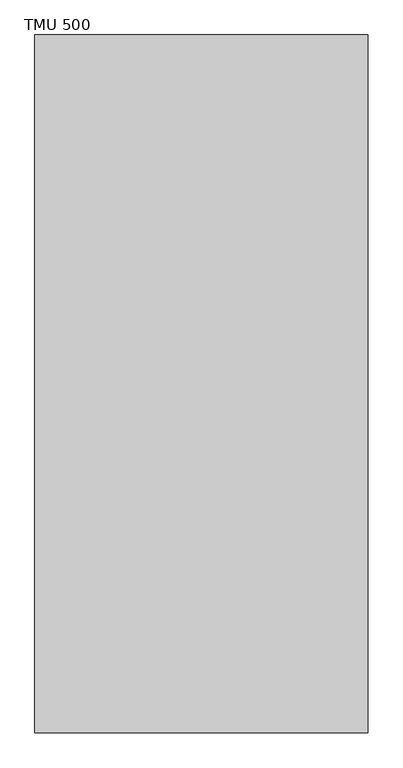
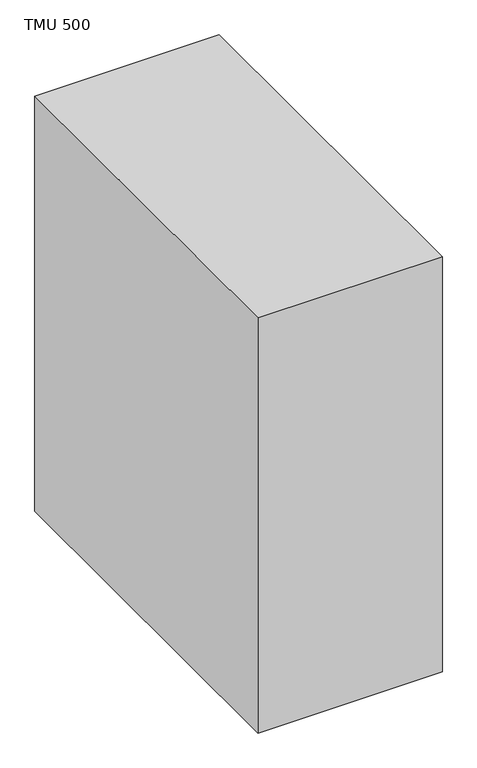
"""IFC4 building model written with IfcOpenShell, lengths in millimetres: unitary equipment geometry, AIC_StratifiedBufferTank_TMU_500-800_r00 : TMU 500."""

import ifcopenshell
import ifcopenshell.guid

model = None  # the IFC model being written
_history = None  # IfcOwnerHistory: only IFC2X3 demands one
_inside = {}  # id of a spatial element -> (the spatial element, [elements in it])
_under = {}  # id of a project, library or spatial element -> (it, [spatial elements below it])
_declared = {}  # id of a project -> (the project, [libraries it declares])
_typed = {}  # id of a type object -> (the type object, [elements of that type])
_made_of = {}  # id of a material, layer set ... -> (it, [elements and type objects made of it])


def new_model(schema):
    """Start an empty IFC model of exactly this schema.

    Asked for "IFC4X3", IfcOpenShell would pick the latest addendum, in which some entities
    have other attributes; the version numbers below select the first issue.
    IFC2X3 requires an IfcOwnerHistory on every rooted entity: one is made here for all.
    """
    global model, _history
    if schema == "IFC4X3":
        model = ifcopenshell.file(schema_version=(4, 3, 0, 0))
    else:
        model = ifcopenshell.file(schema=schema)
    _inside.clear()
    _under.clear()
    _declared.clear()
    _typed.clear()
    _made_of.clear()
    _history = None
    if model.schema == "IFC2X3":
        org = make("IfcOrganization", Name="unknown")
        user = make(
            "IfcPersonAndOrganization",
            ThePerson=make("IfcPerson", FamilyName="unknown"),
            TheOrganization=org,
        )
        app = make(
            "IfcApplication",
            ApplicationDeveloper=org,
            Version="unknown",
            ApplicationFullName="unknown",
            ApplicationIdentifier="unknown",
        )
        _history = make(
            "IfcOwnerHistory",
            OwningUser=user,
            OwningApplication=app,
            ChangeAction="ADDED",
            CreationDate=0,
        )
    return model


def make(cls, **values):
    """One entity of the class cls with the attributes given. An attribute that is None is left unset."""
    return model.create_entity(
        cls, **{name: value for name, value in values.items() if value is not None}
    )


def rooted(cls, **values):
    """An entity with a GlobalId (a new one), such as an element, a storey or a relation."""
    return make(cls, GlobalId=ifcopenshell.guid.new(), OwnerHistory=_history, **values)


def si_unit(unit_type, name, prefix=None):
    """IfcSIUnit, for example si_unit("LENGTHUNIT", "METRE", prefix="MILLI")."""
    return make("IfcSIUnit", UnitType=unit_type, Prefix=prefix, Name=name)


def assignment(units):
    """IfcUnitAssignment: the units of a project."""
    return None if units is None else make("IfcUnitAssignment", Units=units)


def point(xyz):
    """IfcCartesianPoint."""
    return None if xyz is None else make("IfcCartesianPoint", Coordinates=xyz)


def direction(xyz):
    """IfcDirection."""
    return None if xyz is None else make("IfcDirection", DirectionRatios=xyz)


def frame(location, z_axis=None, x_axis=None):
    """IfcAxis2Placement3D, a coordinate frame: its origin and axes. An axis left out is left unset."""
    return make(
        "IfcAxis2Placement3D",
        Location=point(location),
        Axis=direction(z_axis),
        RefDirection=direction(x_axis),
    )


def frame_2d(location, x_axis=None):
    """IfcAxis2Placement2D, a coordinate frame in the plane: its origin and x axis."""
    return make(
        "IfcAxis2Placement2D", Location=point(location), RefDirection=direction(x_axis)
    )


def origin():
    """The frame at (0, 0, 0) with its axes left unset."""
    return frame((0.0, 0.0, 0.0))


def origin_with_axes():
    """The frame at (0, 0, 0) with the z axis (0, 0, 1) and the x axis (1, 0, 0) written out."""
    return frame((0.0, 0.0, 0.0), z_axis=(0.0, 0.0, 1.0), x_axis=(1.0, 0.0, 0.0))


def place(relative_to, where):
    """IfcLocalPlacement: puts the frame where relative to a parent placement (None: the world)."""
    return make(
        "IfcLocalPlacement", PlacementRelTo=relative_to, RelativePlacement=where
    )


def context(
    kind, dimensions, precision=None, world=None, true_north=None, identifier=None
):
    """IfcGeometricRepresentationContext, for example the 3D "Model" context."""
    return make(
        "IfcGeometricRepresentationContext",
        ContextIdentifier=identifier,
        ContextType=kind,
        CoordinateSpaceDimension=dimensions,
        Precision=precision,
        WorldCoordinateSystem=world,
        TrueNorth=true_north,
    )


def project(units=None, contexts=None):
    """IfcProject with its units and contexts."""
    return rooted(
        "IfcProject",
        Name="project",
        RepresentationContexts=contexts,
        UnitsInContext=assignment(units),
    )


def spatial(cls, under=None, at=None, **own):
    """A site, building, storey or space (cls), placed at a placement, below another one or the project."""
    s = rooted(cls, ObjectPlacement=at, **own)
    if under is not None:
        _under.setdefault(under.id(), (under, []))[1].append(s)
    return s


def polyline(points):
    """IfcPolyline through the points."""
    return make("IfcPolyline", Points=[point(p) for p in points])


def circle_curve(where, radius):
    """IfcCircle in the frame where."""
    return make("IfcCircle", Position=where, Radius=radius)


def trimmed(basis, trim1, trim2, sense, master):
    """IfcTrimmedCurve: the piece of a basis curve between two trims."""
    return make(
        "IfcTrimmedCurve",
        BasisCurve=basis,
        Trim1=trim1,
        Trim2=trim2,
        SenseAgreement=sense,
        MasterRepresentation=master,
    )


def segment(curve, same_sense, transition):
    """IfcCompositeCurveSegment."""
    return make(
        "IfcCompositeCurveSegment",
        Transition=transition,
        SameSense=same_sense,
        ParentCurve=curve,
    )


def composite_curve(segments, self_intersect=None):
    """IfcCompositeCurve: segments joined end to end."""
    return make("IfcCompositeCurve", Segments=segments, SelfIntersect=self_intersect)


def outline(outer, holes=None, kind="AREA"):
    """IfcArbitraryClosedProfileDef: a profile drawn as a closed curve; with holes, ...WithVoids."""
    if holes is None:
        return make("IfcArbitraryClosedProfileDef", ProfileType=kind, OuterCurve=outer)
    return make(
        "IfcArbitraryProfileDefWithVoids",
        ProfileType=kind,
        OuterCurve=outer,
        InnerCurves=holes,
    )


def extrude(swept, where, along, depth):
    """IfcExtrudedAreaSolid: the profile swept, set in the frame where, extruded along a direction by depth."""
    return make(
        "IfcExtrudedAreaSolid",
        SweptArea=swept,
        Position=where,
        ExtrudedDirection=direction(along),
        Depth=depth,
    )


def shape(context_of_items, identifier, shape_type, items):
    """IfcShapeRepresentation: the items that make up one representation, for example the "Body"."""
    return make(
        "IfcShapeRepresentation",
        ContextOfItems=context_of_items,
        RepresentationIdentifier=identifier,
        RepresentationType=shape_type,
        Items=items,
    )


def source(mapping_origin, context_of_items, identifier, shape_type, items):
    """IfcRepresentationMap: a shape defined once, which mapped items show again and again."""
    return make(
        "IfcRepresentationMap",
        MappingOrigin=mapping_origin,
        MappedRepresentation=shape(context_of_items, identifier, shape_type, items),
    )


def transform(
    local_origin,
    x_axis=None,
    y_axis=None,
    z_axis=None,
    scale=None,
    scale2=None,
    scale3=None,
    uniform=True,
):
    """IfcCartesianTransformationOperator3D, or its non-uniform kind. x_axis, y_axis, z_axis: its Axis1, 2, 3."""
    if uniform:
        return make(
            "IfcCartesianTransformationOperator3D",
            Axis1=direction(x_axis),
            Axis2=direction(y_axis),
            LocalOrigin=point(local_origin),
            Scale=scale,
            Axis3=direction(z_axis),
        )
    return make(
        "IfcCartesianTransformationOperator3DnonUniform",
        Axis1=direction(x_axis),
        Axis2=direction(y_axis),
        LocalOrigin=point(local_origin),
        Scale=scale,
        Axis3=direction(z_axis),
        Scale2=scale2,
        Scale3=scale3,
    )


def mapped(mapping_source, mapping_target):
    """IfcMappedItem: shows the shape of a source again, moved by a transform."""
    return make(
        "IfcMappedItem", MappingSource=mapping_source, MappingTarget=mapping_target
    )


def made_of(thing, what):
    """Note that an element or type object is made of a material, layer set ...; save() writes the relation."""
    if what is not None:
        _made_of.setdefault(what.id(), (what, []))[1].append(thing)
    return thing


def element(
    cls,
    number,
    at=None,
    inside=None,
    cuts=None,
    type_object=None,
    material=None,
    context=None,
    identifier="Body",
    shape_type=None,
    held_by="IfcProductDefinitionShape",
    body=None,
    shapes=None,
    **own,
):
    """One element of the class cls, such as IfcWall. Its Tag is "e" and its number.

    at: its placement. inside: the storey or other place that contains it. cuts: it is an
    opening in that element (IfcRelVoidsElement). A single representation is given by context,
    identifier, shape_type and body (its items); several are given by shapes. held_by: the class
    of the entity that holds the representations. save() writes the other relations.
    """
    e = rooted(cls, Tag="e%d" % number, ObjectPlacement=at, **own)
    if body is not None:
        shapes = [shape(context, identifier, shape_type, body)]
    if shapes is not None:
        e.Representation = make(held_by, Representations=shapes)
    if inside is not None:
        _inside.setdefault(inside.id(), (inside, []))[1].append(e)
    if cuts is not None:
        rooted(
            "IfcRelVoidsElement", RelatingBuildingElement=cuts, RelatedOpeningElement=e
        )
    if type_object is not None:
        _typed.setdefault(type_object.id(), (type_object, []))[1].append(e)
    return made_of(e, material)


def aggregate(whole, parts):
    """IfcRelAggregates: a whole, such as a stair, and the parts it consists of."""
    return rooted("IfcRelAggregates", RelatingObject=whole, RelatedObjects=parts)


def save(model, path):
    """Write the relations noted so far, then the file.

    IfcRelAggregates (storeys below a building ...), IfcRelContainedInSpatialStructure (elements
    in a storey), IfcRelDefinesByType, IfcRelAssociatesMaterial and IfcRelDeclares: one each for
    every whole, place, type object, material and project.
    """
    for whole, parts in _under.values():
        aggregate(whole, parts)
    for where, things in _inside.values():
        rooted(
            "IfcRelContainedInSpatialStructure",
            RelatedElements=things,
            RelatingStructure=where,
        )
    for kind, things in _typed.values():
        rooted("IfcRelDefinesByType", RelatedObjects=things, RelatingType=kind)
    for what, things in _made_of.values():
        rooted("IfcRelAssociatesMaterial", RelatedObjects=things, RelatingMaterial=what)
    for by, libraries in _declared.values():
        rooted("IfcRelDeclares", RelatingContext=by, RelatedDefinitions=libraries)
    model.write(path)


def plane_surface(at):
    """IfcPlane: the flat surface through the origin of the frame at, square to its z axis."""
    return make("IfcPlane", Position=at)


def cylinder_surface(at, radius):
    """IfcCylindricalSurface: all points at the distance radius from the z axis of the frame at."""
    return make("IfcCylindricalSurface", Position=at, Radius=radius)


def advanced_brep(points, edges, surfaces, faces):
    """IfcAdvancedBrep: a solid bounded by faces that lie on surfaces and meet in shared edges.

    An edge is (start, end): straight between two places in points (the first is 0);
    or (start, end, curve); or (start, end, curve, False) where it runs against its curve.
    A face is (place in surfaces, loops), or (place, loops, False) where it looks against
    its surface's normal. A loop lists edges by number (the first is 1), with a minus sign
    where the edge is run from its end to its start. The first loop is the outer one.
    """
    corners = [point(p) for p in points]
    vertices = [make("IfcVertexPoint", VertexGeometry=c) for c in corners]
    made = []
    for start, end, *more in edges:
        made.append(
            make(
                "IfcEdgeCurve",
                EdgeStart=vertices[start],
                EdgeEnd=vertices[end],
                EdgeGeometry=more[0] if more else make("IfcPolyline", Points=[corners[start], corners[end]]),
                SameSense=more[1] if len(more) > 1 else True,
            )
        )
    hull = []
    for where, loops, *sense in faces:
        bounds = []
        for j, loop in enumerate(loops):
            ring = [make("IfcOrientedEdge", EdgeElement=made[abs(k) - 1], Orientation=k > 0) for k in loop]
            bounds.append(
                make(
                    "IfcFaceOuterBound" if j == 0 else "IfcFaceBound",
                    Bound=make("IfcEdgeLoop", EdgeList=ring),
                    Orientation=True,
                )
            )
        hull.append(make("IfcAdvancedFace", Bounds=bounds, FaceSurface=surfaces[where], SameSense=sense[0] if sense else True))
    return make("IfcAdvancedBrep", Outer=make("IfcClosedShell", CfsFaces=hull))


def tmu_500_29b279d2(model_context):
    return source(origin(), model_context, "Body", "SolidModel", [
        extrude(outline(polyline([(540.0, -1251.0), (-540.0, -1251.0), (-540.0, 1011.0), (540.0, 1011.0), (540.0, -1251.0)])), origin_with_axes(), (0.0, 0.0, 1.0), 2571.0),
        advanced_brep(
        [(-390.0, 511.0, 2171.0), (-440.0, 461.0, 2171.0), (-440.0, 451.0, 2171.0), (-420.0, 451.0, 2171.0), (-420.0, 446.5, 2171.0), (-440.0, 446.5, 2171.0), (-440.0, -446.5, 2171.0), (-420.0, -446.5, 2171.0), (-420.0, -451.0, 2171.0), (-440.0, -451.0, 2171.0), (-440.0, -461.0, 2171.0), (-390.0, -511.0, 2171.0), (-380.0, -511.0, 2171.0), (-380.0, -491.0, 2171.0), (-375.5, -491.0, 2171.0), (-375.5, -511.0, 2171.0), (375.5, -511.0, 2171.0), (375.5, -491.0, 2171.0), (380.0, -491.0, 2171.0), (380.0, -511.0, 2171.0), (390.0, -511.0, 2171.0), (440.0, -461.0, 2171.0), (440.0, -451.0, 2171.0), (420.0, -451.0, 2171.0), (420.0, -446.5, 2171.0), (440.0, -446.5, 2171.0), (440.0, 446.5, 2171.0), (420.0, 446.5, 2171.0), (420.0, 451.0, 2171.0), (440.0, 451.0, 2171.0), (440.0, 461.0, 2171.0), (390.0, 511.0, 2171.0), (380.0, 511.0, 2171.0), (380.0, 491.0, 2171.0), (375.5, 491.0, 2171.0), (375.5, 511.0, 2171.0), (-375.5, 511.0, 2171.0), (-375.5, 491.0, 2171.0), (-380.0, 491.0, 2171.0), (-380.0, 511.0, 2171.0), (-432.5, 463.5, 3.0), (-392.5, 503.5, 3.0), (-387.0, 503.5, 3.0), (-387.0, 479.0, 3.0), (-352.2040816, 479.0, 3.0), (-352.2040816, -480.0, 3.0), (-28.494898, -480.0, 3.0), (-28.494898, 479.0, 3.0), (28.494898, 479.0, 3.0), (28.494898, -480.0, 3.0), (352.2040816, -480.0, 3.0), (352.2040816, 479.0, 3.0), (387.0, 479.0, 3.0), (387.0, 503.5, 3.0), (392.5, 503.5, 3.0), (432.5, 463.5, 3.0), (432.5, -463.5, 3.0), (392.5, -503.5, 3.0), (-392.5, -503.5, 3.0), (-432.5, -463.5, 3.0), (387.0, 511.0, 133.0), (387.0, 511.0, 98.0), (-387.0, 511.0, 98.0), (-387.0, 511.0, 133.0), (-390.0, 511.0, 133.0), (-380.0, 511.0, 133.0), (-375.5, 511.0, 133.0), (375.5, 511.0, 133.0), (380.0, 511.0, 133.0), (390.0, 511.0, 133.0), (-440.0, 446.5, 1639.0), (-440.0, -446.5, 1639.0), (-440.0, 461.0, 133.0), (-440.0, 451.0, 133.0), (-440.0, -461.0, 133.0), (-440.0, -451.0, 133.0), (-440.0, 446.5, 133.0), (-440.0, -446.5, 133.0), (-440.0, -446.5, 1634.0), (-440.0, 446.5, 1634.0), (-375.5, -511.0, 1817.0), (375.5, -511.0, 1817.0), (-390.0, -511.0, 133.0), (-380.0, -511.0, 133.0), (390.0, -511.0, 133.0), (380.0, -511.0, 133.0), (-375.5, -511.0, 133.0), (375.5, -511.0, 133.0), (375.5, -511.0, 1359.0), (-375.5, -511.0, 1359.0), (-375.5, -511.0, 1812.0), (-375.5, -511.0, 1389.0), (375.5, -511.0, 1389.0), (375.5, -511.0, 1812.0), (440.0, -446.5, 1639.0), (440.0, 446.5, 1639.0), (440.0, 461.0, 133.0), (440.0, 451.0, 133.0), (440.0, -461.0, 133.0), (440.0, -451.0, 133.0), (440.0, -446.5, 133.0), (440.0, 446.5, 133.0), (440.0, 446.5, 1634.0), (440.0, -446.5, 1634.0), (-432.5, 446.5, 133.0), (-432.5, -446.5, 133.0), (-375.5, -503.5, 133.0), (375.5, -503.5, 133.0), (432.5, -446.5, 133.0), (432.5, 446.5, 133.0), (-432.5, -463.5, 133.0), (-392.5, -503.5, 133.0), (-380.0, -503.5, 133.0), (-432.5, -451.0, 133.0), (392.5, -503.5, 133.0), (432.5, -463.5, 133.0), (432.5, -451.0, 133.0), (380.0, -503.5, 133.0), (432.5, 463.5, 133.0), (392.5, 503.5, 133.0), (387.0, 503.5, 133.0), (432.5, 451.0, 133.0), (-387.0, 503.5, 133.0), (-392.5, 503.5, 133.0), (-432.5, 463.5, 133.0), (-432.5, 451.0, 133.0), (-387.0, 503.5, 98.0), (387.0, 503.5, 98.0), (-387.0, 479.0, 98.0), (387.0, 479.0, 98.0), (327.0, 479.0, 98.0), (327.0, -480.0, 98.0), (60.0, -480.0, 98.0), (60.0, 479.0, 98.0), (-60.0, 479.0, 98.0), (-60.0, -480.0, 98.0), (-327.0, -480.0, 98.0), (-327.0, 479.0, 98.0), (-380.0, 491.0, 133.0), (-375.5, 491.0, 133.0), (-420.0, 446.5, 133.0), (-420.0, 451.0, 133.0), (375.5, 491.0, 133.0), (380.0, 491.0, 133.0), (420.0, 451.0, 133.0), (420.0, 446.5, 133.0), (-420.0, -451.0, 133.0), (-420.0, -446.5, 133.0), (-375.5, -491.0, 133.0), (-380.0, -491.0, 133.0), (420.0, -446.5, 133.0), (420.0, -451.0, 133.0), (380.0, -491.0, 133.0), (375.5, -491.0, 133.0), (-420.0, 446.5, 1634.0), (-420.0, -446.5, 1634.0), (-420.0, -446.5, 1639.0), (-420.0, 446.5, 1639.0), (420.0, 446.5, 1639.0), (420.0, -446.5, 1639.0), (420.0, -446.5, 1634.0), (420.0, 446.5, 1634.0), (-375.5, -508.0, 1359.0), (-375.5, -508.0, 1389.0), (-375.5, -508.0, 1812.0), (-375.5, -508.0, 1817.0), (375.5, -508.0, 1817.0), (375.5, -508.0, 1812.0), (375.5, -508.0, 1389.0), (375.5, -508.0, 1359.0)],
        [
            (0, 1, circle_curve(frame((-390.0, 461.0, 2171.0), z_axis=(0.0, 0.0, 1.0), x_axis=(-1.0, 0.0, 0.0)), 50.0)),
            (1, 2),
            (2, 3),
            (3, 4),
            (4, 5),
            (5, 6),
            (6, 7),
            (7, 8),
            (8, 9),
            (9, 10),
            (10, 11, circle_curve(frame((-390.0, -461.0, 2171.0), z_axis=(0.0, 0.0, 1.0), x_axis=(-1.0, 0.0, 0.0)), 50.0)),
            (11, 12),
            (12, 13),
            (13, 14),
            (14, 15),
            (15, 16),
            (16, 17),
            (17, 18),
            (18, 19),
            (19, 20),
            (20, 21, circle_curve(frame((390.0, -461.0, 2171.0), z_axis=(0.0, 0.0, 1.0), x_axis=(-1.0, 0.0, 0.0)), 50.0)),
            (21, 22),
            (22, 23),
            (23, 24),
            (24, 25),
            (25, 26),
            (26, 27),
            (27, 28),
            (28, 29),
            (29, 30),
            (30, 31, circle_curve(frame((390.0, 461.0, 2171.0), z_axis=(0.0, 0.0, 1.0), x_axis=(-1.0, 0.0, 0.0)), 50.0)),
            (31, 32),
            (32, 33),
            (33, 34),
            (34, 35),
            (35, 36),
            (36, 37),
            (37, 38),
            (38, 39),
            (39, 0),
            (40, 41, circle_curve(frame((-392.5, 463.5, 3.0), z_axis=(0.0, 0.0, -1.0), x_axis=(1.0, 0.0, 0.0)), 40.0)),
            (41, 42),
            (42, 43),
            (43, 44),
            (44, 45),
            (45, 46),
            (46, 47),
            (47, 48),
            (48, 49),
            (49, 50),
            (50, 51),
            (51, 52),
            (52, 53),
            (53, 54),
            (54, 55, circle_curve(frame((392.5, 463.5, 3.0), z_axis=(0.0, 0.0, -1.0), x_axis=(1.0, 0.0, 0.0)), 40.0)),
            (55, 56),
            (56, 57, circle_curve(frame((392.5, -463.5, 3.0), z_axis=(0.0, 0.0, -1.0), x_axis=(1.0, 0.0, 0.0)), 40.0)),
            (57, 58),
            (58, 59, circle_curve(frame((-392.5, -463.5, 3.0), z_axis=(0.0, 0.0, -1.0), x_axis=(1.0, 0.0, 0.0)), 40.0)),
            (59, 40),
            (60, 61),
            (61, 62),
            (62, 63),
            (63, 64),
            (64, 0),
            (39, 65),
            (65, 66),
            (66, 36),
            (35, 67),
            (67, 68),
            (68, 32),
            (31, 69),
            (69, 60),
            (5, 70),
            (70, 71),
            (71, 6),
            (1, 72),
            (72, 73),
            (73, 2),
            (74, 10),
            (9, 75),
            (75, 74),
            (76, 77),
            (77, 78),
            (78, 79),
            (79, 76),
            (15, 80),
            (80, 81),
            (81, 16),
            (11, 82),
            (82, 83),
            (83, 12),
            (84, 20),
            (19, 85),
            (85, 84),
            (86, 87),
            (87, 88),
            (88, 89),
            (89, 86),
            (90, 91),
            (91, 92),
            (92, 93),
            (93, 90),
            (25, 94),
            (94, 95),
            (95, 26),
            (96, 30),
            (29, 97),
            (97, 96),
            (21, 98),
            (98, 99),
            (99, 22),
            (100, 101),
            (101, 102),
            (102, 103),
            (103, 100),
            (76, 104),
            (104, 105),
            (105, 77),
            (86, 106),
            (106, 107),
            (107, 87),
            (100, 108),
            (108, 109),
            (109, 101),
            (110, 111, circle_curve(frame((-392.5, -463.5, 133.0), z_axis=(0.0, 0.0, 1.0), x_axis=(1.0, 0.0, 0.0)), 40.0)),
            (111, 112),
            (112, 83),
            (82, 74, circle_curve(frame((-390.0, -461.0, 133.0), z_axis=(0.0, 0.0, -1.0), x_axis=(-1.0, 0.0, 0.0)), 50.0)),
            (75, 113),
            (113, 110),
            (114, 115, circle_curve(frame((392.5, -463.5, 133.0), z_axis=(0.0, 0.0, 1.0), x_axis=(1.0, 0.0, 0.0)), 40.0)),
            (115, 116),
            (116, 99),
            (98, 84, circle_curve(frame((390.0, -461.0, 133.0), z_axis=(0.0, 0.0, -1.0), x_axis=(-1.0, 0.0, 0.0)), 50.0)),
            (85, 117),
            (117, 114),
            (118, 119, circle_curve(frame((392.5, 463.5, 133.0), z_axis=(0.0, 0.0, 1.0), x_axis=(1.0, 0.0, 0.0)), 40.0)),
            (119, 120),
            (120, 60),
            (69, 96, circle_curve(frame((390.0, 461.0, 133.0), z_axis=(0.0, 0.0, -1.0), x_axis=(-1.0, 0.0, 0.0)), 50.0)),
            (97, 121),
            (121, 118),
            (63, 122),
            (122, 123),
            (123, 124, circle_curve(frame((-392.5, 463.5, 133.0), z_axis=(0.0, 0.0, 1.0), x_axis=(1.0, 0.0, 0.0)), 40.0)),
            (124, 125),
            (125, 73),
            (72, 64, circle_curve(frame((-390.0, 461.0, 133.0), z_axis=(0.0, 0.0, -1.0), x_axis=(-1.0, 0.0, 0.0)), 50.0)),
            (123, 41),
            (40, 124),
            (59, 110),
            (113, 105),
            (104, 125),
            (58, 111),
            (57, 114),
            (117, 107),
            (106, 112),
            (56, 115),
            (55, 118),
            (121, 109),
            (108, 116),
            (54, 119),
            (122, 126),
            (126, 42),
            (62, 126),
            (120, 127),
            (127, 61),
            (53, 127),
            (128, 126),
            (127, 129),
            (129, 130),
            (130, 131),
            (131, 132),
            (132, 133),
            (133, 134),
            (134, 135),
            (135, 136),
            (136, 137),
            (137, 128),
            (128, 43),
            (47, 134),
            (133, 48),
            (137, 44),
            (129, 52),
            (51, 130),
            (131, 50),
            (49, 132),
            (135, 46),
            (45, 136),
            (65, 138),
            (138, 139),
            (139, 66),
            (140, 141),
            (141, 125),
            (104, 140),
            (67, 142),
            (142, 143),
            (143, 68),
            (144, 145),
            (145, 109),
            (121, 144),
            (146, 147),
            (147, 105),
            (113, 146),
            (148, 149),
            (149, 112),
            (106, 148),
            (150, 151),
            (151, 116),
            (108, 150),
            (152, 153),
            (153, 107),
            (117, 152),
            (38, 138),
            (37, 139),
            (140, 154),
            (154, 155),
            (155, 147),
            (146, 8),
            (7, 156),
            (156, 157),
            (157, 4),
            (3, 141),
            (157, 70),
            (79, 154),
            (34, 142),
            (33, 143),
            (144, 28),
            (27, 158),
            (158, 159),
            (159, 24),
            (23, 151),
            (150, 160),
            (160, 161),
            (161, 145),
            (95, 158),
            (161, 102),
            (71, 156),
            (155, 78),
            (14, 148),
            (89, 162),
            (162, 163),
            (163, 91),
            (90, 164),
            (164, 165),
            (165, 80),
            (13, 149),
            (159, 94),
            (103, 160),
            (18, 152),
            (17, 153),
            (81, 166),
            (166, 167),
            (167, 93),
            (92, 168),
            (168, 169),
            (169, 88),
            (168, 163),
            (162, 169),
            (166, 165),
            (164, 167),
        ],
        [
            plane_surface(frame((-440.0, 511.0, 2171.0), z_axis=(0.0, 0.0, 1.0), x_axis=(-1.0, 0.0, 0.0))),
            plane_surface(frame((-440.0, 511.0, 3.0), z_axis=(0.0, 0.0, -1.0), x_axis=(1.0, 0.0, 0.0))),
            plane_surface(frame((440.0, 511.0, 2171.0), z_axis=(0.0, 1.0, 0.0), x_axis=(0.0, 0.0, -1.0))),
            plane_surface(frame((-440.0, 511.0, 2171.0), z_axis=(-1.0, 0.0, 0.0), x_axis=(0.0, 0.0, -1.0))),
            plane_surface(frame((-440.0, -511.0, 2171.0), z_axis=(0.0, -1.0, 0.0), x_axis=(0.0, 0.0, -1.0))),
            plane_surface(frame((440.0, -511.0, 2171.0), z_axis=(1.0, 0.0, 0.0), x_axis=(0.0, 0.0, -1.0))),
            plane_surface(frame((-352.5, 463.5, 133.0), z_axis=(0.0, 0.0, -1.0), x_axis=(0.0, -1.0, 0.0))),
            cylinder_surface(frame((-392.5, 463.5, 0.0), z_axis=(0.0, 0.0, -1.0), x_axis=(1.0, 0.0, 0.0)), 40.0),
            plane_surface(frame((-432.5, -463.5, 133.0), z_axis=(-1.0, 0.0, 0.0), x_axis=(0.0, 0.0, -1.0))),
            cylinder_surface(frame((-392.5, -463.5, 0.0), z_axis=(0.0, 0.0, -1.0), x_axis=(1.0, 0.0, 0.0)), 40.0),
            plane_surface(frame((392.5, -503.5, 133.0), z_axis=(0.0, -1.0, 0.0), x_axis=(0.0, 0.0, -1.0))),
            cylinder_surface(frame((392.5, -463.5, 0.0), z_axis=(0.0, 0.0, -1.0), x_axis=(1.0, 0.0, 0.0)), 40.0),
            plane_surface(frame((432.5, 463.5, 133.0), z_axis=(1.0, 0.0, 0.0), x_axis=(0.0, 0.0, -1.0))),
            cylinder_surface(frame((392.5, 463.5, 0.0), z_axis=(0.0, 0.0, -1.0), x_axis=(1.0, 0.0, 0.0)), 40.0),
            plane_surface(frame((-392.5, 503.5, 133.0), z_axis=(0.0, 1.0, 0.0), x_axis=(0.0, 0.0, -1.0))),
            plane_surface(frame((-387.0, 503.5, 133.0), z_axis=(-1.0, 0.0, 0.0), x_axis=(0.0, 0.0, -1.0))),
            plane_surface(frame((387.0, 511.0, 133.0), z_axis=(1.0, 0.0, 0.0), x_axis=(0.0, 0.0, -1.0))),
            plane_surface(frame((387.0, 503.5, 133.0), z_axis=(0.0, 1.0, 0.0), x_axis=(0.0, 0.0, -1.0))),
            plane_surface(frame((-387.0, 511.0, 98.0), z_axis=(0.0, 0.0, -1.0), x_axis=(-1.0, 0.0, 0.0))),
            plane_surface(frame((-387.0, 511.0, 98.0), z_axis=(1.0, 0.0, 0.0), x_axis=(0.0, 0.0, -1.0))),
            plane_surface(frame((-387.0, 479.0, 98.0), z_axis=(0.0, 1.0, 0.0), x_axis=(0.0, 0.0, -1.0))),
            plane_surface(frame((387.0, 479.0, 98.0), z_axis=(-1.0, 0.0, 0.0), x_axis=(0.0, 0.0, -1.0))),
            plane_surface(frame((353.0, -480.0, 0.0), z_axis=(0.0, 1.0, 0.0), x_axis=(-0.2564346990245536, 0.0, 0.9665615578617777))),
            plane_surface(frame((327.0, 503.5, 98.0), z_axis=(-0.9665615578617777, 0.0, -0.2564346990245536), x_axis=(0.0, -1.0, 0.0))),
            plane_surface(frame((27.5, 503.5, 0.0), z_axis=(0.9491664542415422, 0.0, -0.3147745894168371), x_axis=(0.0, -1.0, 0.0))),
            plane_surface(frame((-60.0, 503.5, 98.0), z_axis=(-0.9491664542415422, 0.0, -0.3147745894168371), x_axis=(0.0, -1.0, 0.0))),
            plane_surface(frame((-353.0, 503.5, 0.0), z_axis=(0.9665615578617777, 0.0, -0.2564346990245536), x_axis=(0.0, -1.0, 0.0))),
            cylinder_surface(frame((-390.0, 461.0, 133.0), z_axis=(0.0, 0.0, -1.0), x_axis=(-1.0, 0.0, 0.0)), 50.0),
            cylinder_surface(frame((390.0, 461.0, 133.0), z_axis=(0.0, 0.0, -1.0), x_axis=(-1.0, 0.0, 0.0)), 50.0),
            cylinder_surface(frame((-390.0, -461.0, 133.0), z_axis=(0.0, 0.0, -1.0), x_axis=(-1.0, 0.0, 0.0)), 50.0),
            cylinder_surface(frame((390.0, -461.0, 133.0), z_axis=(0.0, 0.0, -1.0), x_axis=(-1.0, 0.0, 0.0)), 50.0),
            plane_surface(frame((-380.0, 511.0, 133.0), z_axis=(0.0, 0.0, 1.0), x_axis=(1.0, 0.0, 0.0))),
            plane_surface(frame((-380.0, 511.0, 2171.0), z_axis=(1.0, 0.0, 0.0), x_axis=(0.0, 0.0, -1.0))),
            plane_surface(frame((-380.0, 491.0, 2171.0), z_axis=(0.0, 1.0, 0.0), x_axis=(0.0, 0.0, -1.0))),
            plane_surface(frame((-375.5, 491.0, 2171.0), z_axis=(-1.0, 0.0, 0.0), x_axis=(0.0, 0.0, -1.0))),
            plane_surface(frame((-420.0, 446.5, 2171.0), z_axis=(-1.0, 0.0, 0.0), x_axis=(0.0, 0.0, -1.0))),
            plane_surface(frame((-420.0, 451.0, 2171.0), z_axis=(0.0, -1.0, 0.0), x_axis=(0.0, 0.0, -1.0))),
            plane_surface(frame((-440.0, 446.5, 2171.0), z_axis=(0.0, 1.0, 0.0), x_axis=(0.0, 0.0, -1.0))),
            plane_surface(frame((375.5, 511.0, 2171.0), z_axis=(1.0, 0.0, 0.0), x_axis=(0.0, 0.0, -1.0))),
            plane_surface(frame((375.5, 491.0, 2171.0), z_axis=(0.0, 1.0, 0.0), x_axis=(0.0, 0.0, -1.0))),
            plane_surface(frame((380.0, 491.0, 2171.0), z_axis=(-1.0, 0.0, 0.0), x_axis=(0.0, 0.0, -1.0))),
            plane_surface(frame((420.0, 451.0, 2171.0), z_axis=(1.0, 0.0, 0.0), x_axis=(0.0, 0.0, -1.0))),
            plane_surface(frame((420.0, 446.5, 2171.0), z_axis=(0.0, 1.0, 0.0), x_axis=(0.0, 0.0, -1.0))),
            plane_surface(frame((440.0, 451.0, 2171.0), z_axis=(0.0, -1.0, 0.0), x_axis=(0.0, 0.0, -1.0))),
            plane_surface(frame((-420.0, -446.5, 2171.0), z_axis=(0.0, -1.0, 0.0), x_axis=(0.0, 0.0, -1.0))),
            plane_surface(frame((-440.0, -451.0, 2171.0), z_axis=(0.0, 1.0, 0.0), x_axis=(0.0, 0.0, -1.0))),
            plane_surface(frame((-375.5, -511.0, 2171.0), z_axis=(-1.0, 0.0, 0.0), x_axis=(0.0, 0.0, -1.0))),
            plane_surface(frame((-375.5, -491.0, 2171.0), z_axis=(0.0, -1.0, 0.0), x_axis=(0.0, 0.0, -1.0))),
            plane_surface(frame((-380.0, -491.0, 2171.0), z_axis=(1.0, 0.0, 0.0), x_axis=(0.0, 0.0, -1.0))),
            plane_surface(frame((420.0, -451.0, 2171.0), z_axis=(0.0, 1.0, 0.0), x_axis=(0.0, 0.0, -1.0))),
            plane_surface(frame((440.0, -446.5, 2171.0), z_axis=(0.0, -1.0, 0.0), x_axis=(0.0, 0.0, -1.0))),
            plane_surface(frame((380.0, -511.0, 2171.0), z_axis=(-1.0, 0.0, 0.0), x_axis=(0.0, 0.0, -1.0))),
            plane_surface(frame((380.0, -491.0, 2171.0), z_axis=(0.0, -1.0, 0.0), x_axis=(0.0, 0.0, -1.0))),
            plane_surface(frame((375.5, -491.0, 2171.0), z_axis=(1.0, 0.0, 0.0), x_axis=(0.0, 0.0, -1.0))),
            plane_surface(frame((-375.5, -508.0, 1389.0), z_axis=(0.0, -1.0, 0.0), x_axis=(1.0, 0.0, 0.0))),
            plane_surface(frame((375.5, -511.0, 1389.0), z_axis=(0.0, 0.0, -1.0), x_axis=(0.0, 1.0, 0.0))),
            plane_surface(frame((-375.5, -511.0, 1359.0), z_axis=(0.0, 0.0, 1.0), x_axis=(0.0, 1.0, 0.0))),
            plane_surface(frame((375.5, -511.0, 1817.0), z_axis=(0.0, 0.0, -1.0), x_axis=(0.0, 1.0, 0.0))),
            plane_surface(frame((-375.5, -511.0, 1812.0), z_axis=(0.0, 0.0, 1.0), x_axis=(0.0, 1.0, 0.0))),
            plane_surface(frame((420.0, -446.5, 1634.0), z_axis=(0.0, 0.0, 1.0), x_axis=(0.0, 1.0, 0.0))),
            plane_surface(frame((440.0, -446.5, 1639.0), z_axis=(0.0, 0.0, -1.0), x_axis=(0.0, 1.0, 0.0))),
            plane_surface(frame((-420.0, -446.5, 1639.0), z_axis=(0.0, 0.0, -1.0), x_axis=(0.0, 1.0, 0.0))),
            plane_surface(frame((-440.0, -446.5, 1634.0), z_axis=(0.0, 0.0, 1.0), x_axis=(0.0, 1.0, 0.0))),
        ],
        [
            (0, [[1, 2, 3, 4, 5, 6, 7, 8, 9, 10, 11, 12, 13, 14, 15, 16, 17, 18, 19, 20, 21, 22, 23, 24, 25, 26, 27, 28, 29, 30, 31, 32, 33, 34, 35, 36, 37, 38, 39, 40]]),
            (1, [[41, 42, 43, 44, 45, 46, 47, 48, 49, 50, 51, 52, 53, 54, 55, 56, 57, 58, 59, 60]]),
            (2, [[61, 62, 63, 64, 65, -40, 66, 67, 68, -36, 69, 70, 71, -32, 72, 73]]),
            (3, [[-6, 74, 75, 76]]),
            (3, [[77, 78, 79, -2]]),
            (3, [[80, -10, 81, 82]]),
            (3, [[83, 84, 85, 86]]),
            (4, [[-16, 87, 88, 89]]),
            (4, [[90, 91, 92, -12]]),
            (4, [[93, -20, 94, 95]]),
            (4, [[96, 97, 98, 99]]),
            (4, [[100, 101, 102, 103]]),
            (5, [[-26, 104, 105, 106]]),
            (5, [[107, -30, 108, 109]]),
            (5, [[110, 111, 112, -22]]),
            (5, [[113, 114, 115, 116]]),
            (6, [[-83, 117, 118, 119]]),
            (6, [[-96, 120, 121, 122]]),
            (6, [[-113, 123, 124, 125]]),
            (6, [[126, 127, 128, -91, 129, -82, 130, 131]]),
            (6, [[132, 133, 134, -111, 135, -95, 136, 137]]),
            (6, [[138, 139, 140, -73, 141, -109, 142, 143]]),
            (6, [[144, 145, 146, 147, 148, -78, 149, -64]]),
            (7, [[-146, 150, -41, 151]]),
            (8, [[-151, -60, 152, -131, 153, -118, 154, -147]]),
            (9, [[-126, -152, -59, 155]]),
            (10, [[-155, -58, 156, -137, 157, -121, 158, -127]]),
            (11, [[-132, -156, -57, 159]]),
            (12, [[-159, -56, 160, -143, 161, -124, 162, -133]]),
            (13, [[-138, -160, -55, 163]]),
            (14, [[-145, 164, 165, -42, -150]]),
            (15, [[-144, -63, 166, -164]]),
            (16, [[-140, 167, 168, -61]]),
            (17, [[-139, -163, -54, 169, -167]]),
            (18, [[170, -166, -62, -168, 171, 172, 173, 174, 175, 176, 177, 178, 179, 180]]),
            (19, [[-170, 181, -43, -165]]),
            (20, [[-48, 182, -176, 183]]),
            (20, [[-181, -180, 184, -44]]),
            (20, [[185, -52, 186, -172]]),
            (21, [[-171, -169, -53, -185]]),
            (22, [[-174, 187, -50, 188]]),
            (22, [[-178, 189, -46, 190]]),
            (23, [[-173, -186, -51, -187]]),
            (24, [[-175, -188, -49, -183]]),
            (25, [[-177, -182, -47, -189]]),
            (26, [[-179, -190, -45, -184]]),
            (27, [[-1, -65, -149, -77]]),
            (28, [[-31, -107, -141, -72]]),
            (29, [[-11, -80, -129, -90]]),
            (30, [[-21, -93, -135, -110]]),
            (31, [[191, 192, 193, -67]]),
            (31, [[194, 195, -154, 196]]),
            (31, [[197, 198, 199, -70]]),
            (31, [[200, 201, -161, 202]]),
            (31, [[203, 204, -153, 205]]),
            (31, [[206, 207, -158, 208]]),
            (31, [[209, 210, -162, 211]]),
            (31, [[212, 213, -157, 214]]),
            (32, [[-191, -66, -39, 215]]),
            (33, [[-192, -215, -38, 216]]),
            (34, [[-193, -216, -37, -68]]),
            (35, [[-194, 217, 218, 219, -203, 220, -8, 221, 222, 223, -4, 224]]),
            (36, [[-224, -3, -79, -148, -195]]),
            (37, [[-5, -223, 225, -74]]),
            (37, [[-196, -117, -86, 226, -217]]),
            (38, [[-197, -69, -35, 227]]),
            (39, [[-198, -227, -34, 228]]),
            (40, [[-199, -228, -33, -71]]),
            (41, [[-200, 229, -28, 230, 231, 232, -24, 233, -209, 234, 235, 236]]),
            (42, [[-27, -106, 237, -230]]),
            (42, [[-201, -236, 238, -114, -125]]),
            (43, [[-229, -202, -142, -108, -29]]),
            (44, [[-7, -76, 239, -221]]),
            (44, [[-204, -219, 240, -84, -119]]),
            (45, [[-220, -205, -130, -81, -9]]),
            (46, [[241, -208, -120, -99, 242, 243, 244, -100, 245, 246, 247, -87, -15]]),
            (47, [[-206, -241, -14, 248]]),
            (48, [[-248, -13, -92, -128, -207]]),
            (49, [[-233, -23, -112, -134, -210]]),
            (50, [[-25, -232, 249, -104]]),
            (50, [[-211, -123, -116, 250, -234]]),
            (51, [[251, -214, -136, -94, -19]]),
            (52, [[-212, -251, -18, 252]]),
            (53, [[-252, -17, -89, 253, 254, 255, -102, 256, 257, 258, -97, -122, -213]]),
            (54, [[259, -243, 260, -257]]),
            (54, [[261, -246, 262, -254]]),
            (55, [[-259, -256, -101, -244]]),
            (56, [[-260, -242, -98, -258]]),
            (57, [[-261, -253, -88, -247]]),
            (58, [[-262, -245, -103, -255]]),
            (59, [[-235, -250, -115, -238]]),
            (60, [[-231, -237, -105, -249]]),
            (61, [[-222, -239, -75, -225]]),
            (62, [[-218, -226, -85, -240]]),
        ],
    ),
        extrude(outline(composite_curve([segment(trimmed(circle_curve(frame_2d((1483.5, 342.5)), 14.5), [point((1483.5, 357.0))], [point((1483.5, 328.0))], False, "CARTESIAN"), True, "CONTINUOUS"), segment(trimmed(circle_curve(frame_2d((1483.5, 342.5)), 14.5), [point((1483.5, 328.0))], [point((1483.5, 357.0))], False, "CARTESIAN"), True, "CONTINUOUS")], self_intersect=False)), frame((0.0, 511.0, 0.0), z_axis=(0.0, 1.0, 0.0), x_axis=(0.0, 0.0, 1.0)), (0.0, 0.0, 1.0), 30.0),
        extrude(outline(composite_curve([segment(trimmed(circle_curve(frame_2d((443.0, 1.0)), 32.5), [point((443.0, 33.5))], [point((443.0, -31.5))], False, "CARTESIAN"), True, "CONTINUOUS"), segment(trimmed(circle_curve(frame_2d((443.0, 1.0)), 32.5), [point((443.0, -31.5))], [point((443.0, 33.5))], False, "CARTESIAN"), True, "CONTINUOUS")], self_intersect=False), holes=[composite_curve([segment(trimmed(circle_curve(frame_2d((443.0, 1.0)), 27.35), [point((443.0, 28.35))], [point((443.0, -26.35))], True, "CARTESIAN"), True, "CONTINUOUS"), segment(trimmed(circle_curve(frame_2d((443.0, 1.0)), 27.35), [point((443.0, -26.35))], [point((443.0, 28.35))], True, "CARTESIAN"), True, "CONTINUOUS")], self_intersect=False)]), frame((0.0, 511.0, 0.0), z_axis=(0.0, 1.0, 0.0), x_axis=(0.0, 0.0, 1.0)), (0.0, 0.0, 1.0), 30.0),
        extrude(outline(composite_curve([segment(trimmed(circle_curve(frame_2d((803.0, 1.0)), 32.5), [point((803.0, 33.5))], [point((803.0, -31.5))], False, "CARTESIAN"), True, "CONTINUOUS"), segment(trimmed(circle_curve(frame_2d((803.0, 1.0)), 32.5), [point((803.0, -31.5))], [point((803.0, 33.5))], False, "CARTESIAN"), True, "CONTINUOUS")], self_intersect=False), holes=[composite_curve([segment(trimmed(circle_curve(frame_2d((803.0, 1.0)), 27.35), [point((803.0, 28.35))], [point((803.0, -26.35))], True, "CARTESIAN"), True, "CONTINUOUS"), segment(trimmed(circle_curve(frame_2d((803.0, 1.0)), 27.35), [point((803.0, -26.35))], [point((803.0, 28.35))], True, "CARTESIAN"), True, "CONTINUOUS")], self_intersect=False)]), frame((0.0, 511.0, 0.0), z_axis=(0.0, 1.0, 0.0), x_axis=(0.0, 0.0, 1.0)), (0.0, 0.0, 1.0), 30.0),
        extrude(outline(composite_curve([segment(trimmed(circle_curve(frame_2d((1068.0, 1.0)), 25.0), [point((1068.0, 26.0))], [point((1068.0, -24.0))], False, "CARTESIAN"), True, "CONTINUOUS"), segment(trimmed(circle_curve(frame_2d((1068.0, 1.0)), 25.0), [point((1068.0, -24.0))], [point((1068.0, 26.0))], False, "CARTESIAN"), True, "CONTINUOUS")], self_intersect=False), holes=[composite_curve([segment(trimmed(circle_curve(frame_2d((1068.0, 1.0)), 22.15), [point((1068.0, 23.15))], [point((1068.0, -21.15))], True, "CARTESIAN"), True, "CONTINUOUS"), segment(trimmed(circle_curve(frame_2d((1068.0, 1.0)), 22.15), [point((1068.0, -21.15))], [point((1068.0, 23.15))], True, "CARTESIAN"), True, "CONTINUOUS")], self_intersect=False)]), frame((0.0, 511.0, 0.0), z_axis=(0.0, 1.0, 0.0), x_axis=(0.0, 0.0, 1.0)), (0.0, 0.0, 1.0), 30.0),
        extrude(outline(composite_curve([segment(trimmed(circle_curve(frame_2d((1293.0, 1.0)), 32.5), [point((1293.0, 33.5))], [point((1293.0, -31.5))], False, "CARTESIAN"), True, "CONTINUOUS"), segment(trimmed(circle_curve(frame_2d((1293.0, 1.0)), 32.5), [point((1293.0, -31.5))], [point((1293.0, 33.5))], False, "CARTESIAN"), True, "CONTINUOUS")], self_intersect=False), holes=[composite_curve([segment(trimmed(circle_curve(frame_2d((1293.0, 1.0)), 27.35), [point((1293.0, 28.35))], [point((1293.0, -26.35))], True, "CARTESIAN"), True, "CONTINUOUS"), segment(trimmed(circle_curve(frame_2d((1293.0, 1.0)), 27.35), [point((1293.0, -26.35))], [point((1293.0, 28.35))], True, "CARTESIAN"), True, "CONTINUOUS")], self_intersect=False)]), frame((0.0, 511.0, 0.0), z_axis=(0.0, 1.0, 0.0), x_axis=(0.0, 0.0, 1.0)), (0.0, 0.0, 1.0), 30.0),
        extrude(outline(composite_curve([segment(trimmed(circle_curve(frame_2d((1483.0, 1.0)), 32.5), [point((1483.0, 33.5))], [point((1483.0, -31.5))], False, "CARTESIAN"), True, "CONTINUOUS"), segment(trimmed(circle_curve(frame_2d((1483.0, 1.0)), 32.5), [point((1483.0, -31.5))], [point((1483.0, 33.5))], False, "CARTESIAN"), True, "CONTINUOUS")], self_intersect=False), holes=[composite_curve([segment(trimmed(circle_curve(frame_2d((1483.0, 1.0)), 27.35), [point((1483.0, 28.35))], [point((1483.0, -26.35))], True, "CARTESIAN"), True, "CONTINUOUS"), segment(trimmed(circle_curve(frame_2d((1483.0, 1.0)), 27.35), [point((1483.0, -26.35))], [point((1483.0, 28.35))], True, "CARTESIAN"), True, "CONTINUOUS")], self_intersect=False)]), frame((0.0, 511.0, 0.0), z_axis=(0.0, 1.0, 0.0), x_axis=(0.0, 0.0, 1.0)), (0.0, 0.0, 1.0), 30.0),
        extrude(outline(composite_curve([segment(trimmed(circle_curve(frame_2d((1608.0, 1.0)), 25.0), [point((1608.0, -24.0))], [point((1608.0, 26.0))], False, "CARTESIAN"), True, "CONTINUOUS"), segment(trimmed(circle_curve(frame_2d((1608.0, 1.0)), 25.0), [point((1608.0, 26.0))], [point((1608.0, -24.0))], False, "CARTESIAN"), True, "CONTINUOUS")], self_intersect=False), holes=[composite_curve([segment(trimmed(circle_curve(frame_2d((1608.0, 1.0)), 22.15), [point((1608.0, -21.15))], [point((1608.0, 23.15))], True, "CARTESIAN"), True, "CONTINUOUS"), segment(trimmed(circle_curve(frame_2d((1608.0, 1.0)), 22.15), [point((1608.0, 23.15))], [point((1608.0, -21.15))], True, "CARTESIAN"), True, "CONTINUOUS")], self_intersect=False)]), frame((0.0, 511.0, 0.0), z_axis=(0.0, 1.0, 0.0), x_axis=(0.0, 0.0, 1.0)), (0.0, 0.0, 1.0), 30.0),
        extrude(outline(composite_curve([segment(trimmed(circle_curve(frame_2d((1743.0, 1.0)), 32.5), [point((1743.0, -31.5))], [point((1743.0, 33.5))], False, "CARTESIAN"), True, "CONTINUOUS"), segment(trimmed(circle_curve(frame_2d((1743.0, 1.0)), 32.5), [point((1743.0, 33.5))], [point((1743.0, -31.5))], False, "CARTESIAN"), True, "CONTINUOUS")], self_intersect=False), holes=[composite_curve([segment(trimmed(circle_curve(frame_2d((1743.0, 1.0)), 27.35), [point((1743.0, -26.35))], [point((1743.0, 28.35))], True, "CARTESIAN"), True, "CONTINUOUS"), segment(trimmed(circle_curve(frame_2d((1743.0, 1.0)), 27.35), [point((1743.0, 28.35))], [point((1743.0, -26.35))], True, "CARTESIAN"), True, "CONTINUOUS")], self_intersect=False)]), frame((0.0, 511.0, 0.0), z_axis=(0.0, 1.0, 0.0), x_axis=(0.0, 0.0, 1.0)), (0.0, 0.0, 1.0), 30.0),
        extrude(outline(composite_curve([segment(trimmed(circle_curve(frame_2d((2060.0, -124.0)), 25.0), [point((2060.0, -149.0))], [point((2060.0, -99.0))], False, "CARTESIAN"), True, "CONTINUOUS"), segment(trimmed(circle_curve(frame_2d((2060.0, -124.0)), 25.0), [point((2060.0, -99.0))], [point((2060.0, -149.0))], False, "CARTESIAN"), True, "CONTINUOUS")], self_intersect=False), holes=[composite_curve([segment(trimmed(circle_curve(frame_2d((2060.0, -124.0)), 22.15), [point((2060.0, -146.15))], [point((2060.0, -101.85))], True, "CARTESIAN"), True, "CONTINUOUS"), segment(trimmed(circle_curve(frame_2d((2060.0, -124.0)), 22.15), [point((2060.0, -101.85))], [point((2060.0, -146.15))], True, "CARTESIAN"), True, "CONTINUOUS")], self_intersect=False)]), frame((0.0, 511.0, 0.0), z_axis=(0.0, 1.0, 0.0), x_axis=(0.0, 0.0, 1.0)), (0.0, 0.0, 1.0), 30.0),
        extrude(outline(composite_curve([segment(trimmed(circle_curve(frame_2d((2060.0, 125.0)), 32.5), [point((2060.0, 92.5))], [point((2060.0, 157.5))], False, "CARTESIAN"), True, "CONTINUOUS"), segment(trimmed(circle_curve(frame_2d((2060.0, 125.0)), 32.5), [point((2060.0, 157.5))], [point((2060.0, 92.5))], False, "CARTESIAN"), True, "CONTINUOUS")], self_intersect=False), holes=[composite_curve([segment(trimmed(circle_curve(frame_2d((2060.0, 125.0)), 27.35), [point((2060.0, 97.65))], [point((2060.0, 152.35))], True, "CARTESIAN"), True, "CONTINUOUS"), segment(trimmed(circle_curve(frame_2d((2060.0, 125.0)), 27.35), [point((2060.0, 152.35))], [point((2060.0, 97.65))], True, "CARTESIAN"), True, "CONTINUOUS")], self_intersect=False)]), frame((0.0, 511.0, 0.0), z_axis=(0.0, 1.0, 0.0), x_axis=(0.0, 0.0, 1.0)), (0.0, 0.0, 1.0), 30.0),
    ])


if __name__ == "__main__":
    model = new_model("IFC4")
    model_context = context("Model", 3, world=origin())
    ifc_project = project(units=[si_unit("LENGTHUNIT", "METRE", prefix="MILLI")], contexts=[model_context])
    site = spatial("IfcSite", under=ifc_project)
    building = spatial("IfcBuilding", under=site)
    placement = place(None, origin())
    tmu_500_shape = tmu_500_29b279d2(model_context)
    element("IfcUnitaryEquipment", 1, ObjectType="AIC_StratifiedBufferTank_TMU_500-800_r00 : TMU 500", at=placement, inside=building, context=model_context, shape_type="MappedRepresentation", body=[
        mapped(tmu_500_shape, transform((0.0, 0.0, 0.0), x_axis=(1.0, 0.0, 0.0), y_axis=(0.0, 1.0, 0.0), z_axis=(0.0, 0.0, 1.0))),
    ])
    save(model, "model.ifc")
